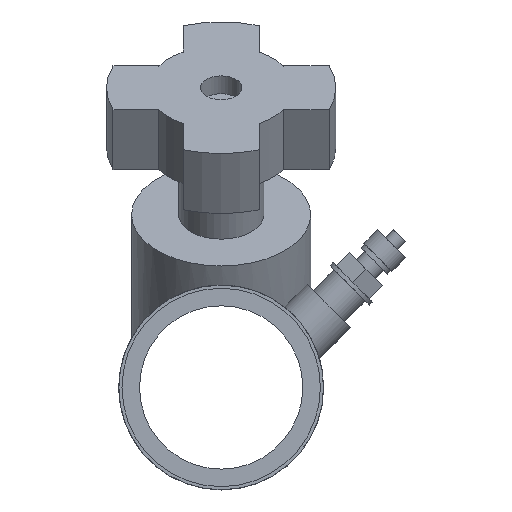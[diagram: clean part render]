
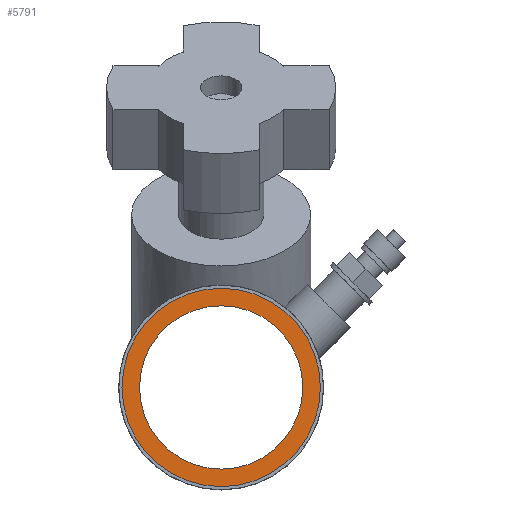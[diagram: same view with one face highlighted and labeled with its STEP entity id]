
A CAD part, left-side view. The second image highlights one B-rep face of the part: STEP entity #5791.
In plain terms, the highlighted planar face has unit normal (-1, 0, 0).
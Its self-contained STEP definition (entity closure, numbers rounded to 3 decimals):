
#1740 = CYLINDRICAL_SURFACE('',#1741,0.975);
#1741 = AXIS2_PLACEMENT_3D('',#1742,#1743,#1744);
#1742 = CARTESIAN_POINT('',(0.,0.,0.));
#1743 = DIRECTION('',(1.,0.,0.));
#1744 = DIRECTION('',(0.,-1.,0.));
#1769 = VERTEX_POINT('',#1770);
#1770 = CARTESIAN_POINT('',(0.,-0.975,0.));
#1790 = EDGE_CURVE('',#1769,#1769,#1791,.T.);
#1791 = SURFACE_CURVE('',#1792,(#1797,#1804),.PCURVE_S1.);
#1792 = CIRCLE('',#1793,0.975);
#1793 = AXIS2_PLACEMENT_3D('',#1794,#1795,#1796);
#1794 = CARTESIAN_POINT('',(0.,0.,0.));
#1795 = DIRECTION('',(1.,0.,0.));
#1796 = DIRECTION('',(0.,-1.,0.));
#1797 = PCURVE('',#1740,#1798);
#1798 = DEFINITIONAL_REPRESENTATION('',(#1799),#1803);
#1799 = LINE('',#1800,#1801);
#1800 = CARTESIAN_POINT('',(0.,0.));
#1801 = VECTOR('',#1802,1.);
#1802 = DIRECTION('',(1.,0.));
#1803 = ( GEOMETRIC_REPRESENTATION_CONTEXT(2) 
PARAMETRIC_REPRESENTATION_CONTEXT() REPRESENTATION_CONTEXT('2D SPACE',''
  ) );
#1804 = PCURVE('',#1805,#1810);
#1805 = PLANE('',#1806);
#1806 = AXIS2_PLACEMENT_3D('',#1807,#1808,#1809);
#1807 = CARTESIAN_POINT('',(0.,0.,0.));
#1808 = DIRECTION('',(-1.,0.,0.));
#1809 = DIRECTION('',(0.,0.,1.));
#1810 = DEFINITIONAL_REPRESENTATION('',(#1811),#1819);
#1811 = ( BOUNDED_CURVE() B_SPLINE_CURVE(2,(#1812,#1813,#1814,#1815,
#1816,#1817,#1818),.UNSPECIFIED.,.T.,.F.) B_SPLINE_CURVE_WITH_KNOTS((1,2
    ,2,2,2,1),(-2.094,0.,2.094,4.189,
6.283,8.378),.UNSPECIFIED.) CURVE() 
GEOMETRIC_REPRESENTATION_ITEM() RATIONAL_B_SPLINE_CURVE((1.,0.5,1.,0.5,
1.,0.5,1.)) REPRESENTATION_ITEM('') );
#1812 = CARTESIAN_POINT('',(0.,-0.975));
#1813 = CARTESIAN_POINT('',(-1.69,-0.975));
#1814 = CARTESIAN_POINT('',(-0.845,0.488));
#1815 = CARTESIAN_POINT('',(0.,1.951));
#1816 = CARTESIAN_POINT('',(0.845,0.488));
#1817 = CARTESIAN_POINT('',(1.69,-0.975));
#1818 = CARTESIAN_POINT('',(0.,-0.975));
#1819 = ( GEOMETRIC_REPRESENTATION_CONTEXT(2) 
PARAMETRIC_REPRESENTATION_CONTEXT() REPRESENTATION_CONTEXT('2D SPACE',''
  ) );
#3071 = CYLINDRICAL_SURFACE('',#3072,1.185);
#3072 = AXIS2_PLACEMENT_3D('',#3073,#3074,#3075);
#3073 = CARTESIAN_POINT('',(0.,0.,0.));
#3074 = DIRECTION('',(1.,0.,0.));
#3075 = DIRECTION('',(0.,-1.,0.));
#5748 = VERTEX_POINT('',#5749);
#5749 = CARTESIAN_POINT('',(0.,-1.185,0.));
#5769 = EDGE_CURVE('',#5748,#5748,#5770,.T.);
#5770 = SURFACE_CURVE('',#5771,(#5776,#5783),.PCURVE_S1.);
#5771 = CIRCLE('',#5772,1.185);
#5772 = AXIS2_PLACEMENT_3D('',#5773,#5774,#5775);
#5773 = CARTESIAN_POINT('',(0.,0.,0.));
#5774 = DIRECTION('',(-1.,0.,0.));
#5775 = DIRECTION('',(0.,-1.,0.));
#5776 = PCURVE('',#3071,#5777);
#5777 = DEFINITIONAL_REPRESENTATION('',(#5778),#5782);
#5778 = LINE('',#5779,#5780);
#5779 = CARTESIAN_POINT('',(6.283,0.));
#5780 = VECTOR('',#5781,1.);
#5781 = DIRECTION('',(-1.,0.));
#5782 = ( GEOMETRIC_REPRESENTATION_CONTEXT(2) 
PARAMETRIC_REPRESENTATION_CONTEXT() REPRESENTATION_CONTEXT('2D SPACE',''
  ) );
#5783 = PCURVE('',#1805,#5784);
#5784 = DEFINITIONAL_REPRESENTATION('',(#5785),#5789);
#5785 = CIRCLE('',#5786,1.185);
#5786 = AXIS2_PLACEMENT_2D('',#5787,#5788);
#5787 = CARTESIAN_POINT('',(0.,0.));
#5788 = DIRECTION('',(0.,-1.));
#5789 = ( GEOMETRIC_REPRESENTATION_CONTEXT(2) 
PARAMETRIC_REPRESENTATION_CONTEXT() REPRESENTATION_CONTEXT('2D SPACE',''
  ) );
#5791 = ADVANCED_FACE('',(#5792,#5795),#1805,.T.);
#5792 = FACE_BOUND('',#5793,.T.);
#5793 = EDGE_LOOP('',(#5794));
#5794 = ORIENTED_EDGE('',*,*,#1790,.T.);
#5795 = FACE_BOUND('',#5796,.T.);
#5796 = EDGE_LOOP('',(#5797));
#5797 = ORIENTED_EDGE('',*,*,#5769,.T.);
